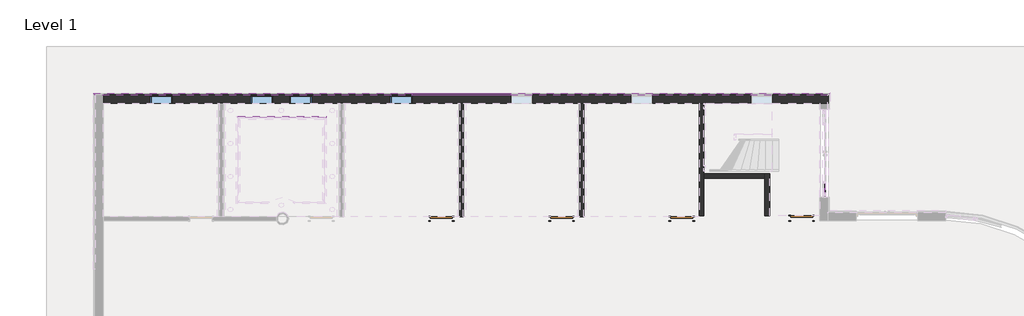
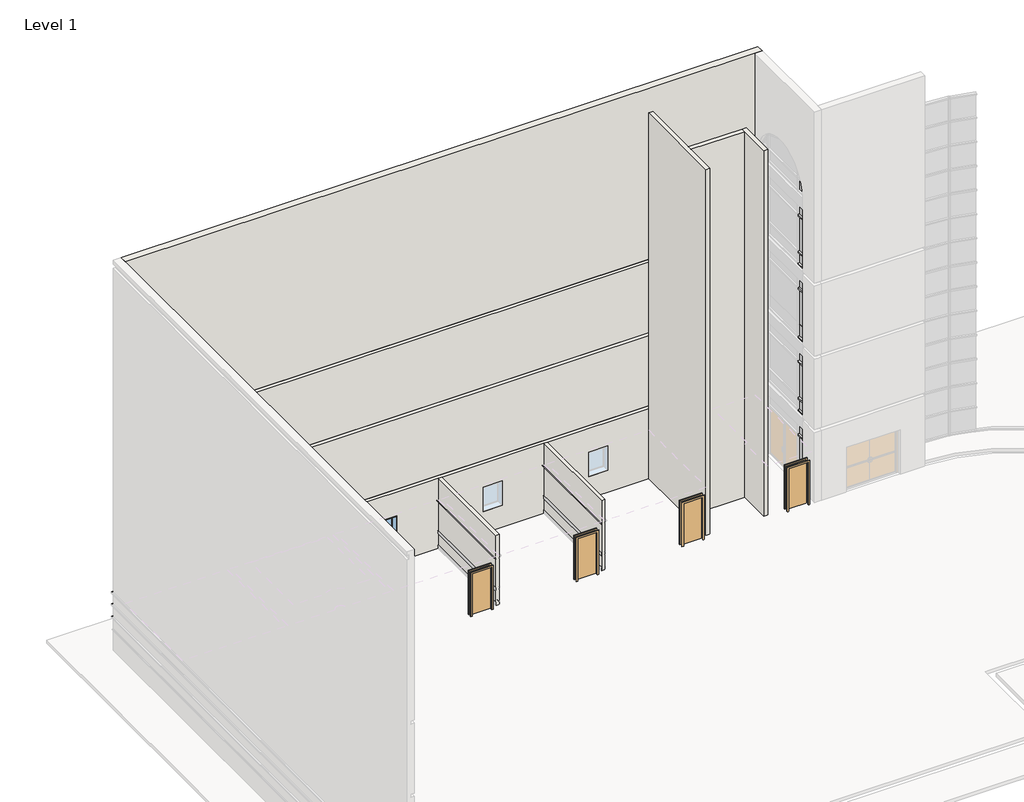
# One storey, part 10 of 20: 13 plates, 12 members, 7 walls, 4 doors, 4 windows, 3 proxies.
"""IFC4 building model written with IfcOpenShell, lengths in millimetres."""

from ifc_helpers import new_model, si_unit, frame, origin, origin_with_axes, place, context, project, spatial, polyline, outline, extrude, faceted_brep, transform, mapped, element, save
from components import door_f9494b7c, door_d6d25fb4, member_aaa03826, system_panel_glazed_0abf4587, system_panel_glazed_c8e71bd0, system_panel_glazed_bf223ca8, system_panel_glazed_db2ca77c, system_panel_glazed_a7a8c7fc, system_panel_glazed_db8a70c9, system_panel_glazed_0a7c89d8, window_15c49d37, window_0e2fc6ce

model = new_model("IFC4")

# Units and contexts
model_context = context("Model", 3, world=origin())
ifc_project = project(units=[si_unit("LENGTHUNIT", "METRE", prefix="MILLI")], contexts=[model_context])

# Site, building, storey
site = spatial("IfcSite", under=ifc_project)
building = spatial("IfcBuilding", under=site)
storey = spatial("IfcBuildingStorey", under=building, Name="Level 1", Elevation=0.0)

# Proxies
placement = place(None, origin())
element("IfcBuildingElementProxy", 1, Name="Reveals", at=placement, inside=storey, context=model_context, shape_type="SweptSolid", body=[
    extrude(outline(polyline([(10753.1735554, 9660.7898319), (10753.1735554, 9752.8648319), (13127.8089721, 9752.8648319), (13035.7339721, 9660.7898319), (10753.1735554, 9660.7898319)])), frame((0.0, 0.0, 1625.6), z_axis=(0.0, 0.0, 1.0), x_axis=(1.0, 0.0, 0.0)), (0.0, 0.0, 1.0), 67.7333333),
    extrude(outline(polyline([(5766.5714721, 9660.7898319), (5766.5714721, 9752.8648319), (9838.7735554, 9752.8648319), (9838.7735554, 9660.7898319), (5766.5714721, 9660.7898319)])), frame((0.0, 0.0, 1625.6), z_axis=(0.0, 0.0, 1.0), x_axis=(1.0, 0.0, 0.0)), (0.0, 0.0, 1.0), 67.7333333),
    extrude(outline(polyline([(774.4131388, 9660.7898319), (774.4131388, 9752.8648319), (4852.1714721, 9752.8648319), (4852.1714721, 9660.7898319), (774.4131388, 9660.7898319)])), frame((0.0, 0.0, 1625.6), z_axis=(0.0, 0.0, 1.0), x_axis=(1.0, 0.0, 0.0)), (0.0, 0.0, 1.0), 67.7333333),
    extrude(outline(polyline([(-4217.7451946, 9660.7898319), (-4217.7451946, 9752.8648319), (-139.9868612, 9752.8648319), (-139.9868612, 9660.7898319), (-4217.7451946, 9660.7898319)])), frame((0.0, 0.0, 1625.6), z_axis=(0.0, 0.0, 1.0), x_axis=(1.0, 0.0, 0.0)), (0.0, 0.0, 1.0), 67.7333333),
    extrude(outline(polyline([(-8403.8063057, 9660.7898319), (-8403.8063057, 9752.8648319), (-5132.1451946, 9752.8648319), (-5132.1451946, 9660.7898319), (-8403.8063057, 9660.7898319)])), frame((0.0, 0.0, 1625.6), z_axis=(0.0, 0.0, 1.0), x_axis=(1.0, 0.0, 0.0)), (0.0, 0.0, 1.0), 67.7333333),
    extrude(outline(polyline([(-10016.0007501, 9660.7898319), (-10016.0007501, 9752.8648319), (-9318.2063057, 9752.8648319), (-9318.2063057, 9660.7898319), (-10016.0007501, 9660.7898319)])), frame((0.0, 0.0, 1625.6), z_axis=(0.0, 0.0, 1.0), x_axis=(1.0, 0.0, 0.0)), (0.0, 0.0, 1.0), 67.7333333),
    extrude(outline(polyline([(-14196.5056112, 9660.7898319), (-14196.5056112, 9752.8648319), (-10930.4007501, 9752.8648319), (-10930.4007501, 9660.7898319), (-14196.5056112, 9660.7898319)])), frame((0.0, 0.0, 1625.6), z_axis=(0.0, 0.0, 1.0), x_axis=(1.0, 0.0, 0.0)), (0.0, 0.0, 1.0), 67.7333333),
    extrude(outline(polyline([(-17393.4660279, 9660.7898319), (-17485.5410279, 9752.8648319), (-15110.9056112, 9752.8648319), (-15110.9056112, 9660.7898319), (-17393.4660279, 9660.7898319)])), frame((0.0, 0.0, 1625.6), z_axis=(0.0, 0.0, 1.0), x_axis=(1.0, 0.0, 0.0)), (0.0, 0.0, 1.0), 67.7333333),
])
element("IfcBuildingElementProxy", 2, Name="Reveals", at=placement, inside=storey, context=model_context, shape_type="SweptSolid", body=[
    extrude(outline(polyline([(10753.1735554, 9660.7898319), (10753.1735554, 9752.8648319), (13127.8089721, 9752.8648319), (13035.7339721, 9660.7898319), (10753.1735554, 9660.7898319)])), frame((0.0, 0.0, 2235.2), z_axis=(0.0, 0.0, 1.0), x_axis=(1.0, 0.0, 0.0)), (0.0, 0.0, 1.0), 67.7333333),
    extrude(outline(polyline([(-14196.5056112, 9660.7898319), (-14196.5056112, 9752.8648319), (-10930.4007501, 9752.8648319), (-10930.4007501, 9660.7898319), (-14196.5056112, 9660.7898319)])), frame((0.0, 0.0, 2235.2), z_axis=(0.0, 0.0, 1.0), x_axis=(1.0, 0.0, 0.0)), (0.0, 0.0, 1.0), 67.7333333),
    extrude(outline(polyline([(-10016.0007501, 9660.7898319), (-10016.0007501, 9752.8648319), (-9318.2063057, 9752.8648319), (-9318.2063057, 9660.7898319), (-10016.0007501, 9660.7898319)])), frame((0.0, 0.0, 2235.2), z_axis=(0.0, 0.0, 1.0), x_axis=(1.0, 0.0, 0.0)), (0.0, 0.0, 1.0), 67.7333333),
    extrude(outline(polyline([(-8403.8063057, 9660.7898319), (-8403.8063057, 9752.8648319), (-5132.1451946, 9752.8648319), (-5132.1451946, 9660.7898319), (-8403.8063057, 9660.7898319)])), frame((0.0, 0.0, 2235.2), z_axis=(0.0, 0.0, 1.0), x_axis=(1.0, 0.0, 0.0)), (0.0, 0.0, 1.0), 67.7333333),
    extrude(outline(polyline([(-4217.7451946, 9660.7898319), (-4217.7451946, 9752.8648319), (-139.9868612, 9752.8648319), (-139.9868612, 9660.7898319), (-4217.7451946, 9660.7898319)])), frame((0.0, 0.0, 2235.2), z_axis=(0.0, 0.0, 1.0), x_axis=(1.0, 0.0, 0.0)), (0.0, 0.0, 1.0), 67.7333333),
    extrude(outline(polyline([(774.4131388, 9660.7898319), (774.4131388, 9752.8648319), (4852.1714721, 9752.8648319), (4852.1714721, 9660.7898319), (774.4131388, 9660.7898319)])), frame((0.0, 0.0, 2235.2), z_axis=(0.0, 0.0, 1.0), x_axis=(1.0, 0.0, 0.0)), (0.0, 0.0, 1.0), 67.7333333),
    extrude(outline(polyline([(5766.5714721, 9660.7898319), (5766.5714721, 9752.8648319), (9838.7735554, 9752.8648319), (9838.7735554, 9660.7898319), (5766.5714721, 9660.7898319)])), frame((0.0, 0.0, 2235.2), z_axis=(0.0, 0.0, 1.0), x_axis=(1.0, 0.0, 0.0)), (0.0, 0.0, 1.0), 67.7333333),
    extrude(outline(polyline([(-17393.4660279, 9660.7898319), (-17485.5410279, 9752.8648319), (-15110.9056112, 9752.8648319), (-15110.9056112, 9660.7898319), (-17393.4660279, 9660.7898319)])), frame((0.0, 0.0, 2235.2), z_axis=(0.0, 0.0, 1.0), x_axis=(1.0, 0.0, 0.0)), (0.0, 0.0, 1.0), 67.7333333),
])
element("IfcBuildingElementProxy", 3, Name="Reveals", at=placement, inside=storey, context=model_context, shape_type="SweptSolid", body=[
    extrude(outline(polyline([(-17393.4660279, 9660.7898319), (-17485.5410279, 9752.8648319), (13127.8089721, 9752.8648319), (13035.7339721, 9660.7898319), (-17393.4660279, 9660.7898319)])), frame((0.0, 0.0, 2844.8), z_axis=(0.0, 0.0, 1.0), x_axis=(1.0, 0.0, 0.0)), (0.0, 0.0, 1.0), 67.7333333),
])

# Doors
door_shape = door_f9494b7c(model_context)
element("IfcDoor", 4, ObjectType="Single-Flush : 36\" x 84\"", at=placement, inside=storey, context=model_context, shape_type="MappedRepresentation", body=[
    mapped(door_shape, transform((-3018.6535279, 4534.7523319, 0.0), x_axis=(1.0, 0.0, 0.0), y_axis=(0.0, 1.0, 0.0), z_axis=(0.0, 0.0, 1.0))),
])
element("IfcDoor", 5, ObjectType="Single-Flush : 36\" x 84\"", at=placement, inside=storey, context=model_context, shape_type="MappedRepresentation", body=[
    mapped(door_shape, transform((1973.5048054, 4534.7523319, 0.0), x_axis=(1.0, 0.0, 0.0), y_axis=(0.0, 1.0, 0.0), z_axis=(0.0, 0.0, 1.0))),
])
element("IfcDoor", 6, ObjectType="Single-Flush : 36\" x 84\"", at=placement, inside=storey, context=model_context, shape_type="MappedRepresentation", body=[
    mapped(door_shape, transform((6965.6631388, 4534.7523319, 0.0), x_axis=(1.0, 0.0, 0.0), y_axis=(0.0, 1.0, 0.0), z_axis=(0.0, 0.0, 1.0))),
])
door_2_shape = door_d6d25fb4(model_context)
element("IfcDoor", 7, ObjectType="Single-Flush : 36\" x 84\"", at=placement, inside=storey, context=model_context, shape_type="MappedRepresentation", body=[
    mapped(door_2_shape, transform((11946.7089721, 4553.8023319, 0.0), x_axis=(1.0, 0.0, 0.0), y_axis=(0.0, 1.0, 0.0), z_axis=(0.0, 0.0, 1.0))),
])

# Members
member_shape = member_aaa03826(model_context)
element("IfcMember", 8, ObjectType="Rectangular Mullion : 2.5\" x 5\" rectangular", at=placement, inside=storey, context=model_context, shape_type="MappedRepresentation", body=[
    mapped(member_shape, transform((12884.9214721, 5996.8398319, 2438.4), x_axis=(0.0, 0.0, 1.0), y_axis=(1.0, 0.0, 0.0), z_axis=(0.0, 1.0, 0.0))),
])
element("IfcMember", 9, ObjectType="Rectangular Mullion : 2.5\" x 5\" rectangular", at=placement, inside=storey, context=model_context, shape_type="MappedRepresentation", body=[
    mapped(member_shape, transform((12884.9214721, 5996.8398319, 4267.2), x_axis=(0.0, 0.0, 1.0), y_axis=(1.0, 0.0, 0.0), z_axis=(0.0, 1.0, 0.0))),
])
element("IfcMember", 10, ObjectType="Rectangular Mullion : 2.5\" x 5\" rectangular", at=placement, inside=storey, context=model_context, shape_type="MappedRepresentation", body=[
    mapped(member_shape, transform((12884.9214721, 5996.8398319, 6096.0), x_axis=(0.0, 0.0, 1.0), y_axis=(1.0, 0.0, 0.0), z_axis=(0.0, 1.0, 0.0))),
])
element("IfcMember", 11, ObjectType="Rectangular Mullion : 2.5\" x 5\" rectangular", at=placement, inside=storey, context=model_context, shape_type="MappedRepresentation", body=[
    mapped(member_shape, transform((12884.9214721, 5996.8398319, 7315.2), x_axis=(0.0, 0.0, 1.0), y_axis=(1.0, 0.0, 0.0), z_axis=(0.0, 1.0, 0.0))),
])
element("IfcMember", 12, ObjectType="Rectangular Mullion : 2.5\" x 5\" rectangular", at=placement, inside=storey, context=model_context, shape_type="MappedRepresentation", body=[
    mapped(member_shape, transform((12884.9214721, 5996.8398319, 6705.6), x_axis=(0.0, 0.0, 1.0), y_axis=(1.0, 0.0, 0.0), z_axis=(0.0, 1.0, 0.0))),
])
element("IfcMember", 13, ObjectType="Rectangular Mullion : 2.5\" x 5\" rectangular", at=placement, inside=storey, context=model_context, shape_type="MappedRepresentation", body=[
    mapped(member_shape, transform((12884.9214721, 5996.8398319, 3657.6), x_axis=(0.0, 0.0, 1.0), y_axis=(1.0, 0.0, 0.0), z_axis=(0.0, 1.0, 0.0))),
])
element("IfcMember", 14, ObjectType="Rectangular Mullion : 2.5\" x 5\" rectangular", at=placement, inside=storey, context=model_context, shape_type="MappedRepresentation", body=[
    mapped(member_shape, transform((12884.9214721, 5996.8398319, 3048.0), x_axis=(0.0, 0.0, 1.0), y_axis=(1.0, 0.0, 0.0), z_axis=(0.0, 1.0, 0.0))),
])
element("IfcMember", 15, ObjectType="Rectangular Mullion : 2.5\" x 5\" rectangular", at=placement, inside=storey, context=model_context, shape_type="MappedRepresentation", body=[
    mapped(member_shape, transform((12884.9214721, 5996.8398319, 9753.6), x_axis=(0.0, 0.0, 1.0), y_axis=(1.0, 0.0, 0.0), z_axis=(0.0, 1.0, 0.0))),
])
element("IfcMember", 16, ObjectType="Rectangular Mullion : 2.5\" x 5\" rectangular", at=placement, inside=storey, context=model_context, shape_type="MappedRepresentation", body=[
    mapped(member_shape, transform((12884.9214721, 5996.8398319, 10363.2), x_axis=(0.0, 0.0, 1.0), y_axis=(1.0, 0.0, 0.0), z_axis=(0.0, 1.0, 0.0))),
])
element("IfcMember", 17, ObjectType="Rectangular Mullion : 2.5\" x 5\" rectangular", at=placement, inside=storey, context=model_context, shape_type="MappedRepresentation", body=[
    mapped(member_shape, transform((12884.9214721, 5996.8398319, 10972.8), x_axis=(0.0, 0.0, 1.0), y_axis=(1.0, 0.0, 0.0), z_axis=(0.0, 1.0, 0.0))),
])
element("IfcMember", 18, ObjectType="Rectangular Mullion : 2.5\" x 5\" rectangular", at=placement, inside=storey, context=model_context, shape_type="MappedRepresentation", body=[
    mapped(member_shape, transform((12884.9214721, 5996.8398319, 11582.4), x_axis=(0.0, 0.0, 1.0), y_axis=(1.0, 0.0, 0.0), z_axis=(0.0, 1.0, 0.0))),
])
element("IfcMember", 19, ObjectType="Rectangular Mullion : 2.5\" x 5\" rectangular", at=placement, inside=storey, context=model_context, shape_type="MappedRepresentation", body=[
    mapped(member_shape, transform((12884.9214721, 5996.8398319, 13411.2), x_axis=(0.0, 0.0, 1.0), y_axis=(1.0, 0.0, 0.0), z_axis=(0.0, 1.0, 0.0))),
])

# Plates
system_panel_glazed_shape = system_panel_glazed_0abf4587(model_context)
element("IfcPlate", 20, ObjectType="System Panel : Glazed", at=placement, inside=storey, context=model_context, shape_type="MappedRepresentation", body=[
    mapped(system_panel_glazed_shape, transform((12884.9214721, 5739.6648319, 63.5), x_axis=(0.0, 1.0, 0.0), y_axis=(-1.0, 0.0, 0.0), z_axis=(0.0, 0.0, 1.0))),
])
system_panel_glazed_2_shape = system_panel_glazed_c8e71bd0(model_context)
element("IfcPlate", 21, ObjectType="System Panel : Glazed", at=placement, inside=storey, context=model_context, shape_type="MappedRepresentation", body=[
    mapped(system_panel_glazed_2_shape, transform((12884.9214721, 5739.6648319, 3689.35), x_axis=(0.0, 1.0, 0.0), y_axis=(-1.0, 0.0, 0.0), z_axis=(0.0, 0.0, 1.0))),
])
element("IfcPlate", 22, ObjectType="System Panel : Glazed", at=placement, inside=storey, context=model_context, shape_type="MappedRepresentation", body=[
    mapped(system_panel_glazed_2_shape, transform((12884.9214721, 5739.6648319, 11004.55), x_axis=(0.0, 1.0, 0.0), y_axis=(-1.0, 0.0, 0.0), z_axis=(0.0, 0.0, 1.0))),
])
element("IfcPlate", 23, ObjectType="System Panel : Glazed", at=placement, inside=storey, context=model_context, shape_type="MappedRepresentation", body=[
    mapped(system_panel_glazed_2_shape, transform((12884.9214721, 5739.6648319, 2470.15), x_axis=(0.0, 1.0, 0.0), y_axis=(-1.0, 0.0, 0.0), z_axis=(0.0, 0.0, 1.0))),
])
element("IfcPlate", 24, ObjectType="System Panel : Glazed", at=placement, inside=storey, context=model_context, shape_type="MappedRepresentation", body=[
    mapped(system_panel_glazed_2_shape, transform((12884.9214721, 5739.6648319, 6127.75), x_axis=(0.0, 1.0, 0.0), y_axis=(-1.0, 0.0, 0.0), z_axis=(0.0, 0.0, 1.0))),
])
element("IfcPlate", 25, ObjectType="System Panel : Glazed", at=placement, inside=storey, context=model_context, shape_type="MappedRepresentation", body=[
    mapped(system_panel_glazed_2_shape, transform((12884.9214721, 5739.6648319, 9785.35), x_axis=(0.0, 1.0, 0.0), y_axis=(-1.0, 0.0, 0.0), z_axis=(0.0, 0.0, 1.0))),
])
element("IfcPlate", 26, ObjectType="System Panel : Glazed", at=placement, inside=storey, context=model_context, shape_type="MappedRepresentation", body=[
    mapped(system_panel_glazed_2_shape, transform((12884.9214721, 5739.6648319, 13442.95), x_axis=(0.0, 1.0, 0.0), y_axis=(-1.0, 0.0, 0.0), z_axis=(0.0, 0.0, 1.0))),
])
system_panel_glazed_3_shape = system_panel_glazed_bf223ca8(model_context)
element("IfcPlate", 27, ObjectType="System Panel : Glazed", at=placement, inside=storey, context=model_context, shape_type="MappedRepresentation", body=[
    mapped(system_panel_glazed_3_shape, transform((12884.9214721, 5739.6648319, 7346.95), x_axis=(0.0, 1.0, 0.0), y_axis=(-1.0, 0.0, 0.0), z_axis=(0.0, 0.0, 1.0))),
])
system_panel_glazed_4_shape = system_panel_glazed_db2ca77c(model_context)
element("IfcPlate", 28, ObjectType="System Panel : Glazed", at=placement, inside=storey, context=model_context, shape_type="MappedRepresentation", body=[
    mapped(system_panel_glazed_4_shape, transform((12884.9214721, 5739.8076043, 14662.15), x_axis=(0.0, 1.0, 0.0), y_axis=(-1.0, 0.0, 0.0), z_axis=(0.0, 0.0, 1.0))),
])
system_panel_glazed_5_shape = system_panel_glazed_a7a8c7fc(model_context)
element("IfcPlate", 29, ObjectType="System Panel : Glazed", at=placement, inside=storey, context=model_context, shape_type="MappedRepresentation", body=[
    mapped(system_panel_glazed_5_shape, transform((12884.9214721, 5739.6648319, 4298.95), x_axis=(0.0, 1.0, 0.0), y_axis=(-1.0, 0.0, 0.0), z_axis=(0.0, 0.0, 1.0))),
])
element("IfcPlate", 30, ObjectType="System Panel : Glazed", at=placement, inside=storey, context=model_context, shape_type="MappedRepresentation", body=[
    mapped(system_panel_glazed_5_shape, transform((12884.9214721, 5739.6648319, 11614.15), x_axis=(0.0, 1.0, 0.0), y_axis=(-1.0, 0.0, 0.0), z_axis=(0.0, 0.0, 1.0))),
])
system_panel_glazed_6_shape = system_panel_glazed_db8a70c9(model_context)
element("IfcPlate", 31, ObjectType="System Panel : Glazed", at=placement, inside=storey, context=model_context, shape_type="MappedRepresentation", body=[
    mapped(system_panel_glazed_6_shape, transform((12884.9214721, 5739.6648319, 7924.8), x_axis=(0.0, 1.0, 0.0), y_axis=(-1.0, 0.0, 0.0), z_axis=(0.0, 0.0, 1.0))),
])
system_panel_glazed_7_shape = system_panel_glazed_0a7c89d8(model_context)
element("IfcPlate", 32, ObjectType="System Panel : Glazed", at=placement, inside=storey, context=model_context, shape_type="MappedRepresentation", body=[
    mapped(system_panel_glazed_7_shape, transform((12884.9214721, 5799.9775733, 15271.75), x_axis=(0.0, 1.0, 0.0), y_axis=(-1.0, 0.0, 0.0), z_axis=(0.0, 0.0, 1.0))),
])

# Walls
element("IfcWall", 33, ObjectType="Exterior - Brick and CMU on MTL. Stud", at=placement, inside=storey, context=model_context, shape_type="Brep", body=[
    faceted_brep([(-17066.4410279, 9333.7648319, 0.0), (-12240.9701946, 9333.7648319, 0.0), (-12085.3951946, 9333.7648319, 0.0), (-7248.8118612, 9333.7648319, 0.0), (-7093.2368612, 9333.7648319, 0.0), (-2256.6535279, 9333.7648319, 0.0), (-2101.0785279, 9333.7648319, 0.0), (2735.5048054, 9333.7648319, 0.0), (2891.0798054, 9333.7648319, 0.0), (7689.5631388, 9333.7648319, 0.0), (7883.2381388, 9333.7648319, 0.0), (12708.7089721, 9333.7648319, 0.0), (13061.1339721, 9333.7648319, 0.0), (13061.1339721, 9333.7648319, 1016.0), (12969.0589721, 9333.7648319, 1016.0), (12969.0589721, 9333.7648319, 1085.85), (13061.1339721, 9333.7648319, 1085.85), (13061.1339721, 9333.7648319, 1625.6), (13035.7339721, 9333.7648319, 1625.6), (13035.7339721, 9333.7648319, 1693.3333333), (13061.1339721, 9333.7648319, 1693.3333333), (13061.1339721, 9333.7648319, 2235.2), (13035.7339721, 9333.7648319, 2235.2), (13035.7339721, 9333.7648319, 2302.9333333), (13061.1339721, 9333.7648319, 2302.9333333), (13061.1339721, 9333.7648319, 2844.8), (13035.7339721, 9333.7648319, 2844.8), (13035.7339721, 9333.7648319, 2912.5333333), (13061.1339721, 9333.7648319, 2912.5333333), (13061.1339721, 9333.7648319, 19100.8), (12969.0589721, 9333.7648319, 19100.8), (12969.0589721, 9333.7648319, 19304.0), (13061.1339721, 9333.7648319, 19304.0), (13061.1339721, 9333.7648319, 19507.2), (12708.7089721, 9333.7648319, 19507.2), (-17066.4410279, 9333.7648319, 19507.2), (-17066.4410279, 9333.7648319, 10972.8), (7883.7381388, 9333.7648319, 10972.8), (10718.2353862, 9333.7648319, 10972.8), (12873.8089721, 9333.7648319, 10972.8), (12873.8089721, 9333.7648319, 10820.4), (10718.2353862, 9333.7648319, 10820.4), (7883.7381388, 9333.7648319, 10820.4), (-17066.4410279, 9333.7648319, 10820.4), (-17066.4410279, 9333.7648319, 7315.2), (7883.7381388, 9333.7648319, 7315.2), (10718.2353862, 9333.7648319, 7315.2), (12873.8089721, 9333.7648319, 7315.2), (12873.8089721, 9333.7648319, 7162.8), (10718.2353862, 9333.7648319, 7162.8), (7883.7381388, 9333.7648319, 7162.8), (-13253.2660279, 9333.7648319, 7162.8), (-13408.8410279, 9333.7648319, 7162.8), (-17066.4410279, 9333.7648319, 7162.8), (-17066.4410279, 9333.7648319, 3657.6), (-13408.8410279, 9333.7648319, 3657.6), (-13253.2660279, 9333.7648319, 3657.6), (7883.7381388, 9333.7648319, 3657.6), (10718.2353862, 9333.7648319, 3657.6), (12873.8089721, 9333.7648319, 3657.6), (12873.8089721, 9333.7648319, 3505.2), (10718.2353862, 9333.7648319, 3505.2), (7883.7381388, 9333.7648319, 3505.2), (2891.0798054, 9333.7648319, 3505.2), (2735.5048054, 9333.7648319, 3505.2), (-2101.0785279, 9333.7648319, 3505.2), (-2256.6535279, 9333.7648319, 3505.2), (-7093.2368612, 9333.7648319, 3505.2), (-7248.8118612, 9333.7648319, 3505.2), (-12085.3951946, 9333.7648319, 3505.2), (-12240.9701946, 9333.7648319, 3505.2), (-17066.4410279, 9333.7648319, 3505.2), (-14196.5056112, 9333.7648319, 2311.4), (-14196.5056112, 9333.7648319, 1092.2), (-15110.9056112, 9333.7648319, 1092.2), (-15110.9056112, 9333.7648319, 2311.4), (-10016.0007501, 9333.7648319, 2311.4), (-10016.0007501, 9333.7648319, 1092.2), (-10930.4007501, 9333.7648319, 1092.2), (-10930.4007501, 9333.7648319, 2311.4), (-4217.7451946, 9333.7648319, 2311.4), (-4217.7451946, 9333.7648319, 1092.2), (-5132.1451946, 9333.7648319, 1092.2), (-5132.1451946, 9333.7648319, 2311.4), (774.4131388, 9333.7648319, 2311.4), (774.4131388, 9333.7648319, 1092.2), (-139.9868612, 9333.7648319, 1092.2), (-139.9868612, 9333.7648319, 2311.4), (5766.5714721, 9333.7648319, 2311.4), (5766.5714721, 9333.7648319, 1092.2), (4852.1714721, 9333.7648319, 1092.2), (4852.1714721, 9333.7648319, 2311.4), (10753.1735554, 9333.7648319, 2311.4), (10753.1735554, 9333.7648319, 1092.2), (9838.7735554, 9333.7648319, 1092.2), (9838.7735554, 9333.7648319, 2311.4), (-9318.2063057, 9333.7648319, 1092.2), (-9318.2063057, 9333.7648319, 2311.4), (-8403.8063057, 9333.7648319, 2311.4), (-8403.8063057, 9333.7648319, 1092.2), (-17066.4410279, 9686.1898319, 19507.2), (13061.1339721, 9686.1898319, 19507.2), (13061.1339721, 9686.1898319, 19304.0), (-17066.4410279, 9686.1898319, 19304.0), (13061.1339721, 9686.1898319, 0.0), (-17066.4410279, 9686.1898319, 0.0), (-17066.4410279, 9686.1898319, 1016.0), (13061.1339721, 9686.1898319, 1016.0), (13061.1339721, 9686.1898319, 1693.3333333), (10753.1735554, 9686.1898319, 1693.3333333), (10753.1735554, 9686.1898319, 2235.2), (13061.1339721, 9686.1898319, 2235.2), (10753.1735554, 9686.1898319, 1625.6), (13061.1339721, 9686.1898319, 1625.6), (13061.1339721, 9686.1898319, 1085.85), (-17066.4410279, 9686.1898319, 1085.85), (-17066.4410279, 9686.1898319, 1625.6), (-15110.9056112, 9686.1898319, 1625.6), (-15110.9056112, 9686.1898319, 1092.2), (-14196.5056112, 9686.1898319, 1092.2), (-14196.5056112, 9686.1898319, 1625.6), (-10930.4007501, 9686.1898319, 1625.6), (-10930.4007501, 9686.1898319, 1092.2), (-10016.0007501, 9686.1898319, 1092.2), (-10016.0007501, 9686.1898319, 1625.6), (-9318.2063057, 9686.1898319, 1625.6), (-9318.2063057, 9686.1898319, 1092.2), (-8403.8063057, 9686.1898319, 1092.2), (-8403.8063057, 9686.1898319, 1625.6), (-5132.1451946, 9686.1898319, 1625.6), (-5132.1451946, 9686.1898319, 1092.2), (-4217.7451946, 9686.1898319, 1092.2), (-4217.7451946, 9686.1898319, 1625.6), (-139.9868612, 9686.1898319, 1625.6), (-139.9868612, 9686.1898319, 1092.2), (774.4131388, 9686.1898319, 1092.2), (774.4131388, 9686.1898319, 1625.6), (4852.1714721, 9686.1898319, 1625.6), (4852.1714721, 9686.1898319, 1092.2), (5766.5714721, 9686.1898319, 1092.2), (5766.5714721, 9686.1898319, 1625.6), (9838.7735554, 9686.1898319, 1625.6), (9838.7735554, 9686.1898319, 1092.2), (10753.1735554, 9686.1898319, 1092.2), (13061.1339721, 9686.1898319, 2302.9333333), (10753.1735554, 9686.1898319, 2302.9333333), (10753.1735554, 9686.1898319, 2311.4), (9838.7735554, 9686.1898319, 2311.4), (9838.7735554, 9686.1898319, 2302.9333333), (5766.5714721, 9686.1898319, 2302.9333333), (5766.5714721, 9686.1898319, 2311.4), (4852.1714721, 9686.1898319, 2311.4), (4852.1714721, 9686.1898319, 2302.9333333), (774.4131388, 9686.1898319, 2302.9333333), (774.4131388, 9686.1898319, 2311.4), (-139.9868612, 9686.1898319, 2311.4), (-139.9868612, 9686.1898319, 2302.9333333), (-4217.7451946, 9686.1898319, 2302.9333333), (-4217.7451946, 9686.1898319, 2311.4), (-5132.1451946, 9686.1898319, 2311.4), (-5132.1451946, 9686.1898319, 2302.9333333), (-8403.8063057, 9686.1898319, 2302.9333333), (-8403.8063057, 9686.1898319, 2311.4), (-9318.2063057, 9686.1898319, 2311.4), (-9318.2063057, 9686.1898319, 2302.9333333), (-10016.0007501, 9686.1898319, 2302.9333333), (-10016.0007501, 9686.1898319, 2311.4), (-10930.4007501, 9686.1898319, 2311.4), (-10930.4007501, 9686.1898319, 2302.9333333), (-14196.5056112, 9686.1898319, 2302.9333333), (-14196.5056112, 9686.1898319, 2311.4), (-15110.9056112, 9686.1898319, 2311.4), (-15110.9056112, 9686.1898319, 2302.9333333), (-17066.4410279, 9686.1898319, 2302.9333333), (-17066.4410279, 9686.1898319, 2844.8), (13061.1339721, 9686.1898319, 2844.8), (-15110.9056112, 9686.1898319, 1693.3333333), (-17066.4410279, 9686.1898319, 1693.3333333), (-17066.4410279, 9686.1898319, 2235.2), (-15110.9056112, 9686.1898319, 2235.2), (13061.1339721, 9686.1898319, 2912.5333333), (-17066.4410279, 9686.1898319, 2912.5333333), (-17066.4410279, 9686.1898319, 19100.8), (13061.1339721, 9686.1898319, 19100.8), (9838.7735554, 9686.1898319, 1693.3333333), (5766.5714721, 9686.1898319, 1693.3333333), (5766.5714721, 9686.1898319, 2235.2), (9838.7735554, 9686.1898319, 2235.2), (4852.1714721, 9686.1898319, 1693.3333333), (774.4131388, 9686.1898319, 1693.3333333), (774.4131388, 9686.1898319, 2235.2), (4852.1714721, 9686.1898319, 2235.2), (-139.9868612, 9686.1898319, 1693.3333333), (-4217.7451946, 9686.1898319, 1693.3333333), (-4217.7451946, 9686.1898319, 2235.2), (-139.9868612, 9686.1898319, 2235.2), (-5132.1451946, 9686.1898319, 1693.3333333), (-8403.8063057, 9686.1898319, 1693.3333333), (-8403.8063057, 9686.1898319, 2235.2), (-5132.1451946, 9686.1898319, 2235.2), (-9318.2063057, 9686.1898319, 1693.3333333), (-10016.0007501, 9686.1898319, 1693.3333333), (-10016.0007501, 9686.1898319, 2235.2), (-9318.2063057, 9686.1898319, 2235.2), (-10930.4007501, 9686.1898319, 2235.2), (-10930.4007501, 9686.1898319, 1693.3333333), (-14196.5056112, 9686.1898319, 1693.3333333), (-14196.5056112, 9686.1898319, 2235.2), (-17066.4410279, 9594.1148319, 0.0), (13061.1339721, 9594.1148319, 0.0), (13035.7339721, 9660.7898319, 1693.3333333), (10753.1735554, 9660.7898319, 1693.3333333), (10753.1735554, 9660.7898319, 1625.6), (13035.7339721, 9660.7898319, 1625.6), (13035.7339721, 9660.7898319, 2302.9333333), (10753.1735554, 9660.7898319, 2302.9333333), (10753.1735554, 9660.7898319, 2235.2), (13035.7339721, 9660.7898319, 2235.2), (13035.7339721, 9660.7898319, 2844.8), (-17066.4410279, 9660.7898319, 2844.8), (-17066.4410279, 9660.7898319, 2912.5333333), (13035.7339721, 9660.7898319, 2912.5333333), (12969.0589721, 9594.1148319, 1016.0), (-17066.4410279, 9594.1148319, 1016.0), (-17066.4410279, 9594.1148319, 1085.85), (12969.0589721, 9594.1148319, 1085.85), (12969.0589721, 9594.1148319, 19100.8), (-17066.4410279, 9594.1148319, 19100.8), (-17066.4410279, 9594.1148319, 19304.0), (12969.0589721, 9594.1148319, 19304.0), (-17066.4410279, 9660.7898319, 2302.9333333), (-17066.4410279, 9660.7898319, 2235.2), (-17066.4410279, 9660.7898319, 1693.3333333), (-17066.4410279, 9660.7898319, 1625.6), (-17066.4410279, 9498.8648319, 3505.2), (-17066.4410279, 9498.8648319, 3657.6), (-17066.4410279, 9498.8648319, 7162.8), (-17066.4410279, 9498.8648319, 7315.2), (-17066.4410279, 9498.8648319, 10820.4), (-17066.4410279, 9498.8648319, 10972.8), (-15110.9056112, 9660.7898319, 1693.3333333), (-15110.9056112, 9660.7898319, 1625.6), (-15110.9056112, 9660.7898319, 2302.9333333), (-15110.9056112, 9660.7898319, 2235.2), (-14196.5056112, 9660.7898319, 2302.9333333), (-14196.5056112, 9660.7898319, 2235.2), (-14196.5056112, 9660.7898319, 1693.3333333), (-14196.5056112, 9660.7898319, 1625.6), (5766.5714721, 9660.7898319, 1693.3333333), (9838.7735554, 9660.7898319, 1693.3333333), (9838.7735554, 9660.7898319, 1625.6), (5766.5714721, 9660.7898319, 1625.6), (-10016.0007501, 9660.7898319, 2302.9333333), (-10016.0007501, 9660.7898319, 2235.2), (-10016.0007501, 9660.7898319, 1693.3333333), (-10016.0007501, 9660.7898319, 1625.6), (-10930.4007501, 9660.7898319, 1625.6), (-10930.4007501, 9660.7898319, 1693.3333333), (-10930.4007501, 9660.7898319, 2235.2), (-10930.4007501, 9660.7898319, 2302.9333333), (774.4131388, 9660.7898319, 1693.3333333), (4852.1714721, 9660.7898319, 1693.3333333), (4852.1714721, 9660.7898319, 1625.6), (774.4131388, 9660.7898319, 1625.6), (-4217.7451946, 9660.7898319, 2302.9333333), (-4217.7451946, 9660.7898319, 2235.2), (-4217.7451946, 9660.7898319, 1693.3333333), (-4217.7451946, 9660.7898319, 1625.6), (-5132.1451946, 9660.7898319, 1625.6), (-5132.1451946, 9660.7898319, 1693.3333333), (-5132.1451946, 9660.7898319, 2235.2), (-5132.1451946, 9660.7898319, 2302.9333333), (-139.9868612, 9660.7898319, 1693.3333333), (-139.9868612, 9660.7898319, 1625.6), (774.4131388, 9660.7898319, 2302.9333333), (774.4131388, 9660.7898319, 2235.2), (-139.9868612, 9660.7898319, 2235.2), (-139.9868612, 9660.7898319, 2302.9333333), (-8403.8063057, 9660.7898319, 1693.3333333), (-8403.8063057, 9660.7898319, 1625.6), (5766.5714721, 9660.7898319, 2302.9333333), (5766.5714721, 9660.7898319, 2235.2), (4852.1714721, 9660.7898319, 2235.2), (4852.1714721, 9660.7898319, 2302.9333333), (-9318.2063057, 9660.7898319, 1693.3333333), (-9318.2063057, 9660.7898319, 1625.6), (9838.7735554, 9660.7898319, 2235.2), (9838.7735554, 9660.7898319, 2302.9333333), (-9318.2063057, 9660.7898319, 2302.9333333), (-9318.2063057, 9660.7898319, 2235.2), (-8403.8063057, 9660.7898319, 2302.9333333), (-8403.8063057, 9660.7898319, 2235.2), (12873.8089721, 9498.8648319, 3505.2), (12873.8089721, 9498.8648319, 3657.6), (12873.8089721, 9498.8648319, 7162.8), (12873.8089721, 9498.8648319, 7315.2), (12873.8089721, 9498.8648319, 10820.4), (12873.8089721, 9498.8648319, 10972.8)], [[[0, 1, 2, 3, 4, 5, 6, 7, 8, 9, 10, 11, 12, 13, 14, 15, 16, 17, 18, 19, 20, 21, 22, 23, 24, 25, 26, 27, 28, 29, 30, 31, 32, 33, 34, 35, 36, 37, 38, 39, 40, 41, 42, 43, 44, 45, 46, 47, 48, 49, 50, 51, 52, 53, 54, 55, 56, 57, 58, 59, 60, 61, 62, 63, 64, 65, 66, 67, 68, 69, 70, 71], [72, 73, 74, 75], [76, 77, 78, 79], [80, 81, 82, 83], [84, 85, 86, 87], [88, 89, 90, 91], [92, 93, 94, 95], [96, 97, 98, 99]], [[100, 101, 102, 103]], [[104, 105, 106, 107]], [[108, 109, 110, 111]], [[112, 113, 114, 115, 116, 117, 118, 119, 120, 121, 122, 123, 124, 125, 126, 127, 128, 129, 130, 131, 132, 133, 134, 135, 136, 137, 138, 139, 140, 141, 142, 143]], [[144, 145, 146, 147, 148, 149, 150, 151, 152, 153, 154, 155, 156, 157, 158, 159, 160, 161, 162, 163, 164, 165, 166, 167, 168, 169, 170, 171, 172, 173, 174, 175]], [[176, 177, 178, 179]], [[180, 181, 182, 183]], [[184, 185, 186, 187]], [[188, 189, 190, 191]], [[192, 193, 194, 195]], [[196, 197, 198, 199]], [[200, 201, 202, 203]], [[204, 205, 206, 207]], [[35, 34, 33, 101, 100]], [[12, 11, 10, 9, 8, 7, 6, 5, 4, 3, 2, 1, 0, 208, 209]], [[210, 211, 109, 108, 20, 19]], [[212, 213, 18, 17, 113, 112]], [[211, 210, 213, 212]], [[214, 215, 145, 144, 24, 23]], [[216, 217, 22, 21, 111, 110]], [[215, 214, 217, 216]], [[218, 219, 220, 221]], [[222, 223, 224, 225]], [[226, 227, 228, 229]], [[35, 100, 103, 228, 227, 182, 181, 220, 219, 174, 173, 230, 231, 178, 177, 232, 233, 116, 115, 224, 223, 106, 105, 208, 0, 71, 234, 235, 54, 53, 236, 237, 44, 43, 238, 239, 36]], [[105, 104, 209, 208]], [[177, 176, 240, 232]], [[117, 116, 233, 241]], [[173, 172, 242, 230]], [[179, 178, 231, 243]], [[221, 220, 181, 180, 28, 27]], [[219, 218, 26, 25, 175, 174]], [[225, 224, 115, 114, 16, 15]], [[223, 222, 14, 13, 107, 106]], [[227, 226, 30, 29, 183, 182]], [[229, 228, 103, 102, 32, 31]], [[101, 33, 32, 102]], [[12, 209, 104, 107, 13]], [[28, 180, 183, 29]], [[21, 20, 108, 111]], [[17, 16, 114, 113]], [[25, 24, 144, 175]], [[218, 221, 27, 26]], [[222, 225, 15, 14]], [[226, 229, 31, 30]], [[73, 72, 170, 169, 244, 245, 207, 206, 246, 247, 120, 119]], [[74, 73, 119, 118]], [[75, 74, 118, 117, 241, 240, 176, 179, 243, 242, 172, 171]], [[72, 75, 171, 170]], [[248, 249, 250, 251]], [[77, 76, 166, 165, 252, 253, 202, 201, 254, 255, 124, 123]], [[78, 77, 123, 122]], [[79, 78, 122, 121, 256, 257, 205, 204, 258, 259, 168, 167]], [[76, 79, 167, 166]], [[260, 261, 262, 263]], [[249, 248, 185, 184]], [[251, 250, 141, 140]], [[81, 80, 158, 157, 264, 265, 194, 193, 266, 267, 132, 131]], [[82, 81, 131, 130]], [[83, 82, 130, 129, 268, 269, 196, 199, 270, 271, 160, 159]], [[80, 83, 159, 158]], [[266, 272, 273, 267]], [[261, 260, 189, 188]], [[263, 262, 137, 136]], [[85, 84, 154, 153, 274, 275, 190, 189, 260, 263, 136, 135]], [[86, 85, 135, 134]], [[87, 86, 134, 133, 273, 272, 192, 195, 276, 277, 156, 155]], [[84, 87, 155, 154]], [[278, 269, 268, 279]], [[272, 266, 193, 192]], [[267, 273, 133, 132]], [[89, 88, 150, 149, 280, 281, 186, 185, 248, 251, 140, 139]], [[90, 89, 139, 138]], [[91, 90, 138, 137, 262, 261, 188, 191, 282, 283, 152, 151]], [[88, 91, 151, 150]], [[254, 284, 285, 255]], [[269, 278, 197, 196]], [[279, 268, 129, 128]], [[93, 92, 146, 145, 215, 216, 110, 109, 211, 212, 112, 143]], [[94, 93, 143, 142]], [[95, 94, 142, 141, 250, 249, 184, 187, 286, 287, 148, 147]], [[92, 95, 147, 146]], [[246, 257, 256, 247]], [[284, 254, 201, 200]], [[255, 285, 125, 124]], [[244, 259, 258, 245]], [[288, 252, 165, 164]], [[253, 289, 203, 202]], [[252, 288, 289, 253]], [[271, 290, 161, 160]], [[291, 270, 199, 198]], [[290, 271, 270, 291]], [[277, 264, 157, 156]], [[265, 276, 195, 194]], [[264, 277, 276, 265]], [[283, 274, 153, 152]], [[275, 282, 191, 190]], [[274, 283, 282, 275]], [[287, 280, 149, 148]], [[281, 286, 187, 186]], [[280, 287, 286, 281]], [[60, 292, 234, 71, 70, 69, 68, 67, 66, 65, 64, 63, 62, 61]], [[235, 293, 59, 58, 57, 56, 55, 54]], [[292, 293, 235, 234]], [[293, 292, 60, 59]], [[48, 294, 236, 53, 52, 51, 50, 49]], [[237, 295, 47, 46, 45, 44]], [[294, 295, 237, 236]], [[295, 294, 48, 47]], [[40, 296, 238, 43, 42, 41]], [[297, 39, 38, 37, 36, 239]], [[296, 297, 239, 238]], [[297, 296, 40, 39]], [[97, 96, 126, 125, 285, 284, 200, 203, 289, 288, 164, 163]], [[127, 126, 96, 99]], [[99, 98, 162, 161, 290, 291, 198, 197, 278, 279, 128, 127]], [[163, 162, 98, 97]], [[232, 240, 241, 233]], [[257, 246, 206, 205]], [[247, 256, 121, 120]], [[213, 210, 19, 18]], [[230, 242, 243, 231]], [[259, 244, 169, 168]], [[245, 258, 204, 207]], [[217, 214, 23, 22]]]),
])
element("IfcWall", 34, ObjectType="Generic - 8\" Masonry", at=placement, inside=storey, context=model_context, shape_type="Brep", body=[
    faceted_brep([(7883.2381388, 4650.6398319, 0.0), (7883.2381388, 6216.5398319, 0.0), (7883.2381388, 6410.2148319, 0.0), (7883.2381388, 9333.7648319, 0.0), (7883.2381388, 9333.7648319, 18288.0), (7883.2381388, 6410.2148319, 18288.0), (7883.2381388, 6216.5398319, 18288.0), (7883.2381388, 4650.6398319, 18288.0), (7689.5631388, 4650.6398319, 0.0), (7689.5631388, 4650.6398319, 18288.0), (7689.5631388, 9333.7648319, 18288.0), (7689.5631388, 9333.7648319, 0.0)], [[[0, 1, 2, 3, 4, 5, 6, 7]], [[8, 9, 10, 11]], [[3, 2, 1, 0, 8, 11]], [[7, 6, 5, 4, 10, 9]], [[4, 3, 11, 10]], [[0, 7, 9, 8]]]),
])
element("IfcWall", 35, ObjectType="Generic - 8\" Masonry", at=placement, inside=storey, context=model_context, shape_type="Brep", body=[
    faceted_brep([(10616.9131388, 4650.6398319, 0.0), (10616.9131388, 6410.2148319, 0.0), (10616.9131388, 6410.2148319, 18288.0), (10616.9131388, 4650.6398319, 18288.0), (10423.2381388, 4650.6398319, 0.0), (10423.2381388, 4650.6398319, 18288.0), (10423.2381388, 6216.5398319, 18288.0), (10423.2381388, 6410.2148319, 18288.0), (10423.2381388, 6410.2148319, 0.0), (10423.2381388, 6216.5398319, 0.0)], [[[0, 1, 2, 3]], [[4, 5, 6, 7, 8, 9]], [[1, 0, 4, 9, 8]], [[3, 2, 7, 6, 5]], [[0, 3, 5, 4]], [[2, 1, 8, 7]]]),
])
element("IfcWall", 36, ObjectType="Generic - 8\" Masonry", at=placement, inside=storey, context=model_context, shape_type="SweptSolid", body=[
    extrude(outline(polyline([(7883.2381388, 6410.2148319), (10423.2381388, 6410.2148319), (10423.2381388, 6216.5398319), (7883.2381388, 6216.5398319), (7883.2381388, 6410.2148319)])), origin_with_axes(), (0.0, 0.0, 1.0), 18288.0),
])
element("IfcWall", 37, ObjectType="Interior - 6 1/8\" Partition (2-hr)", at=placement, inside=storey, context=model_context, shape_type="Brep", body=[
    faceted_brep([(-2101.0785279, 4612.5398319, 0.0), (-2101.0785279, 9333.7648319, 0.0), (-2101.0785279, 9333.7648319, 25.4), (-2101.0785279, 9333.7648319, 139.7), (-2101.0785279, 9333.7648319, 184.15), (-2101.0785279, 9333.7648319, 762.0), (-2101.0785279, 9333.7648319, 779.4625), (-2101.0785279, 9333.7648319, 884.2375), (-2101.0785279, 9333.7648319, 901.7), (-2101.0785279, 9333.7648319, 2327.275), (-2101.0785279, 9333.7648319, 2351.8919306), (-2101.0785279, 9333.7648319, 3505.2), (-2101.0785279, 4612.5398319, 3505.2), (-2101.0785279, 4612.5398319, 2351.8919306), (-2101.0785279, 4612.5398319, 2327.275), (-2101.0785279, 4612.5398319, 901.7), (-2101.0785279, 4612.5398319, 884.2375), (-2101.0785279, 4612.5398319, 779.4625), (-2101.0785279, 4612.5398319, 762.0), (-2101.0785279, 4612.5398319, 184.15), (-2101.0785279, 4612.5398319, 139.7), (-2101.0785279, 4612.5398319, 25.4), (-2256.6535279, 4612.5398319, 0.0), (-2256.6535279, 4612.5398319, 25.4), (-2256.6535279, 4612.5398319, 139.7), (-2256.6535279, 4612.5398319, 184.15), (-2256.6535279, 4612.5398319, 762.0), (-2256.6535279, 4612.5398319, 779.4625), (-2256.6535279, 4612.5398319, 884.2375), (-2256.6535279, 4612.5398319, 901.7), (-2256.6535279, 4612.5398319, 2327.275), (-2256.6535279, 4612.5398319, 2351.8919306), (-2256.6535279, 4612.5398319, 3505.2), (-2256.6535279, 9333.7648319, 3505.2), (-2256.6535279, 9333.7648319, 2351.8919306), (-2256.6535279, 9333.7648319, 2327.275), (-2256.6535279, 9333.7648319, 901.7), (-2256.6535279, 9333.7648319, 884.2375), (-2256.6535279, 9333.7648319, 779.4625), (-2256.6535279, 9333.7648319, 762.0), (-2256.6535279, 9333.7648319, 184.15), (-2256.6535279, 9333.7648319, 139.7), (-2256.6535279, 9333.7648319, 25.4), (-2256.6535279, 9333.7648319, 0.0)], [[[0, 1, 2, 3, 4, 5, 6, 7, 8, 9, 10, 11, 12, 13, 14, 15, 16, 17, 18, 19, 20, 21]], [[22, 23, 24, 25, 26, 27, 28, 29, 30, 31, 32, 33, 34, 35, 36, 37, 38, 39, 40, 41, 42, 43]], [[1, 0, 22, 43]], [[0, 21, 20, 19, 18, 17, 16, 15, 14, 13, 12, 32, 31, 30, 29, 28, 27, 26, 25, 24, 23, 22]], [[11, 10, 9, 8, 7, 6, 5, 4, 3, 2, 1, 43, 42, 41, 40, 39, 38, 37, 36, 35, 34, 33]], [[12, 11, 33, 32]]]),
])
element("IfcWall", 38, ObjectType="Interior - 6 1/8\" Partition (2-hr)", at=placement, inside=storey, context=model_context, shape_type="Brep", body=[
    faceted_brep([(2891.0798054, 4612.5398319, 0.0), (2891.0798054, 9333.7648319, 0.0), (2891.0798054, 9333.7648319, 25.4), (2891.0798054, 9333.7648319, 139.7), (2891.0798054, 9333.7648319, 184.15), (2891.0798054, 9333.7648319, 762.0), (2891.0798054, 9333.7648319, 779.4625), (2891.0798054, 9333.7648319, 884.2375), (2891.0798054, 9333.7648319, 901.7), (2891.0798054, 9333.7648319, 2327.275), (2891.0798054, 9333.7648319, 2351.8919306), (2891.0798054, 9333.7648319, 3505.2), (2891.0798054, 4612.5398319, 3505.2), (2891.0798054, 4612.5398319, 2351.8919306), (2891.0798054, 4612.5398319, 2327.275), (2891.0798054, 4612.5398319, 901.7), (2891.0798054, 4612.5398319, 884.2375), (2891.0798054, 4612.5398319, 779.4625), (2891.0798054, 4612.5398319, 762.0), (2891.0798054, 4612.5398319, 184.15), (2891.0798054, 4612.5398319, 139.7), (2891.0798054, 4612.5398319, 25.4), (2735.5048054, 4612.5398319, 0.0), (2735.5048054, 4612.5398319, 25.4), (2735.5048054, 4612.5398319, 139.7), (2735.5048054, 4612.5398319, 184.15), (2735.5048054, 4612.5398319, 762.0), (2735.5048054, 4612.5398319, 779.4625), (2735.5048054, 4612.5398319, 884.2375), (2735.5048054, 4612.5398319, 901.7), (2735.5048054, 4612.5398319, 2327.275), (2735.5048054, 4612.5398319, 2351.8919306), (2735.5048054, 4612.5398319, 3505.2), (2735.5048054, 9333.7648319, 3505.2), (2735.5048054, 9333.7648319, 2351.8919306), (2735.5048054, 9333.7648319, 2327.275), (2735.5048054, 9333.7648319, 901.7), (2735.5048054, 9333.7648319, 884.2375), (2735.5048054, 9333.7648319, 779.4625), (2735.5048054, 9333.7648319, 762.0), (2735.5048054, 9333.7648319, 184.15), (2735.5048054, 9333.7648319, 139.7), (2735.5048054, 9333.7648319, 25.4), (2735.5048054, 9333.7648319, 0.0)], [[[0, 1, 2, 3, 4, 5, 6, 7, 8, 9, 10, 11, 12, 13, 14, 15, 16, 17, 18, 19, 20, 21]], [[22, 23, 24, 25, 26, 27, 28, 29, 30, 31, 32, 33, 34, 35, 36, 37, 38, 39, 40, 41, 42, 43]], [[1, 0, 22, 43]], [[0, 21, 20, 19, 18, 17, 16, 15, 14, 13, 12, 32, 31, 30, 29, 28, 27, 26, 25, 24, 23, 22]], [[11, 10, 9, 8, 7, 6, 5, 4, 3, 2, 1, 43, 42, 41, 40, 39, 38, 37, 36, 35, 34, 33]], [[12, 11, 33, 32]]]),
])
element("IfcWall", 39, ObjectType="Interior -Soffit", at=placement, inside=storey, context=model_context, shape_type="Brep", body=[
    faceted_brep([(-7798.0868612, 8724.1648319, 3505.2), (-7858.4118612, 8724.1648319, 3505.2), (-11475.7951946, 8724.1648319, 3505.2), (-11475.7951946, 8724.1648319, 2546.35), (-7858.4118612, 8724.1648319, 2546.35), (-7798.0868612, 8724.1648319, 2546.35), (-11475.7951946, 8784.4898319, 3505.2), (-7798.0868612, 8784.4898319, 3505.2), (-7798.0868612, 8784.4898319, 2546.35), (-11475.7951946, 8784.4898319, 2546.35)], [[[0, 1, 2, 3, 4, 5]], [[6, 7, 8, 9]], [[2, 6, 9, 3]], [[7, 0, 5, 8]], [[2, 1, 0, 7, 6]], [[5, 4, 3, 9, 8]]]),
])

# Windows
window_shape = window_15c49d37(model_context)
element("IfcWindow", 40, ObjectType="Fixed : 36\" x 48\"", at=placement, inside=storey, context=model_context, shape_type="MappedRepresentation", body=[
    mapped(window_shape, transform((-14615.6056112, 9509.9773319, 177.8), x_axis=(1.0, 0.0, 0.0), y_axis=(0.0, 1.0, 0.0), z_axis=(0.0, 0.0, 1.0))),
])
element("IfcWindow", 41, ObjectType="Fixed : 36\" x 48\"", at=placement, inside=storey, context=model_context, shape_type="MappedRepresentation", body=[
    mapped(window_shape, transform((-10435.1007501, 9509.9773319, 177.8), x_axis=(1.0, 0.0, 0.0), y_axis=(0.0, 1.0, 0.0), z_axis=(0.0, 0.0, 1.0))),
])
element("IfcWindow", 42, ObjectType="Fixed : 36\" x 48\"", at=placement, inside=storey, context=model_context, shape_type="MappedRepresentation", body=[
    mapped(window_shape, transform((-4636.8451946, 9509.9773319, 177.8), x_axis=(1.0, 0.0, 0.0), y_axis=(0.0, 1.0, 0.0), z_axis=(0.0, 0.0, 1.0))),
])
window_2_shape = window_0e2fc6ce(model_context)
element("IfcWindow", 43, ObjectType="Fixed : 36\" x 48\"", at=placement, inside=storey, context=model_context, shape_type="MappedRepresentation", body=[
    mapped(window_2_shape, transform((-8899.1063057, 9509.9773319, 177.8), x_axis=(-1.0, 0.0, 0.0), y_axis=(0.0, -1.0, 0.0), z_axis=(0.0, 0.0, 1.0))),
])

save(model, "model.ifc")
